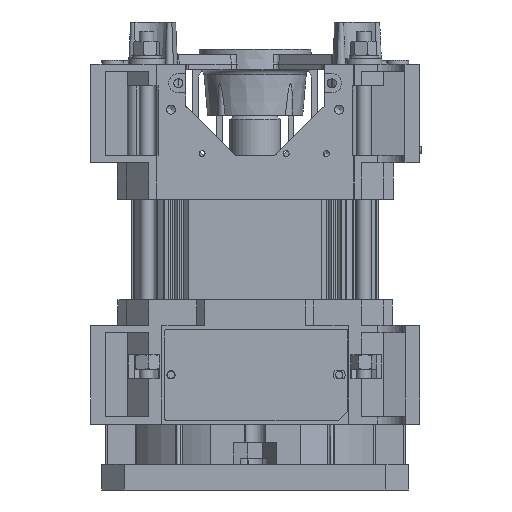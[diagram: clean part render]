
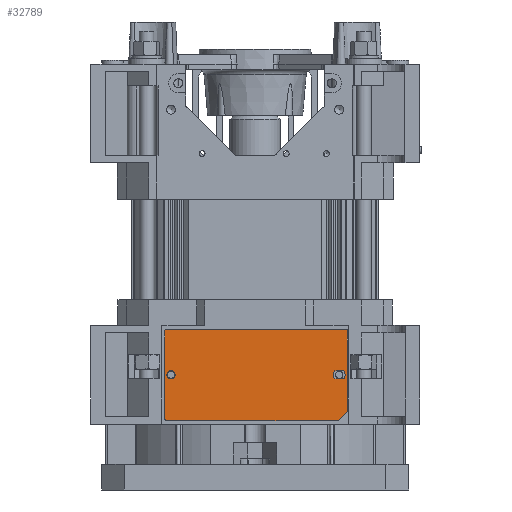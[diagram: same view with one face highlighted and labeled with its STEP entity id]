
A CAD part, left-side view. The second image highlights one B-rep face of the part: STEP entity #32789.
In plain terms, the highlighted planar face has unit normal (-1, 0, 0) as drawn and (0, 0, -1) by its records, which use the part's own axes.
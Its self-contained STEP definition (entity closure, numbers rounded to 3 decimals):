
#3837=LINE('',#58661,#6799);
#3841=LINE('',#58671,#6803);
#3846=LINE('',#58689,#6808);
#3850=LINE('',#58701,#6812);
#3854=LINE('',#58713,#6816);
#3857=LINE('',#58719,#6819);
#3859=LINE('',#58722,#6821);
#6799=VECTOR('',#45557,1.);
#6803=VECTOR('',#45569,1.);
#6808=VECTOR('',#45588,1.);
#6812=VECTOR('',#45600,1.);
#6816=VECTOR('',#45612,1.);
#6819=VECTOR('',#45617,1.);
#6821=VECTOR('',#45621,1.);
#7795=PLANE('',#36138);
#8026=FACE_BOUND('',#11680,.T.);
#8027=FACE_BOUND('',#11681,.T.);
#9734=FACE_OUTER_BOUND('',#11679,.T.);
#11679=EDGE_LOOP('',(#30581,#30582,#30583,#30584,#30585,#30586,#30587,#30588));
#11680=EDGE_LOOP('',(#30589,#30590,#30591,#30592));
#11681=EDGE_LOOP('',(#30593,#30594));
#13089=CIRCLE('',#36111,2.25);
#13091=CIRCLE('',#36114,3.25);
#13093=CIRCLE('',#36118,3.25);
#13094=CIRCLE('',#36121,2.25);
#13097=CIRCLE('',#36125,1.);
#13099=CIRCLE('',#36129,1.);
#13101=CIRCLE('',#36133,1.);
#16250=VERTEX_POINT('',#58641);
#16252=VERTEX_POINT('',#58645);
#16255=VERTEX_POINT('',#58652);
#16256=VERTEX_POINT('',#58654);
#16258=VERTEX_POINT('',#58660);
#16260=VERTEX_POINT('',#58666);
#16263=VERTEX_POINT('',#58679);
#16264=VERTEX_POINT('',#58681);
#16266=VERTEX_POINT('',#58687);
#16268=VERTEX_POINT('',#58693);
#16270=VERTEX_POINT('',#58699);
#16272=VERTEX_POINT('',#58705);
#16274=VERTEX_POINT('',#58711);
#16276=VERTEX_POINT('',#58717);
#21016=EDGE_CURVE('',#16250,#16252,#13089,.T.);
#21019=EDGE_CURVE('',#16256,#16255,#13091,.T.);
#21022=EDGE_CURVE('',#16258,#16256,#3837,.T.);
#21025=EDGE_CURVE('',#16260,#16258,#13093,.T.);
#21028=EDGE_CURVE('',#16255,#16260,#3841,.T.);
#21029=EDGE_CURVE('',#16252,#16250,#13094,.T.);
#21033=EDGE_CURVE('',#16264,#16263,#13097,.T.);
#21037=EDGE_CURVE('',#16263,#16266,#3846,.T.);
#21040=EDGE_CURVE('',#16266,#16268,#13099,.T.);
#21043=EDGE_CURVE('',#16268,#16270,#3850,.T.);
#21046=EDGE_CURVE('',#16270,#16272,#13101,.T.);
#21049=EDGE_CURVE('',#16272,#16274,#3854,.T.);
#21052=EDGE_CURVE('',#16274,#16276,#3857,.T.);
#21054=EDGE_CURVE('',#16276,#16264,#3859,.T.);
#30581=ORIENTED_EDGE('',*,*,#21054,.T.);
#30582=ORIENTED_EDGE('',*,*,#21033,.T.);
#30583=ORIENTED_EDGE('',*,*,#21037,.T.);
#30584=ORIENTED_EDGE('',*,*,#21040,.T.);
#30585=ORIENTED_EDGE('',*,*,#21043,.T.);
#30586=ORIENTED_EDGE('',*,*,#21046,.T.);
#30587=ORIENTED_EDGE('',*,*,#21049,.T.);
#30588=ORIENTED_EDGE('',*,*,#21052,.T.);
#30589=ORIENTED_EDGE('',*,*,#21019,.T.);
#30590=ORIENTED_EDGE('',*,*,#21028,.T.);
#30591=ORIENTED_EDGE('',*,*,#21025,.T.);
#30592=ORIENTED_EDGE('',*,*,#21022,.T.);
#30593=ORIENTED_EDGE('',*,*,#21029,.T.);
#30594=ORIENTED_EDGE('',*,*,#21016,.T.);
#32789=ADVANCED_FACE('',(#9734,#8026,#8027),#7795,.F.);
#36111=AXIS2_PLACEMENT_3D('',#58647,#45544,#45545);
#36114=AXIS2_PLACEMENT_3D('',#58655,#45551,#45552);
#36118=AXIS2_PLACEMENT_3D('',#58667,#45563,#45564);
#36121=AXIS2_PLACEMENT_3D('',#58673,#45572,#45573);
#36125=AXIS2_PLACEMENT_3D('',#58682,#45581,#45582);
#36129=AXIS2_PLACEMENT_3D('',#58695,#45594,#45595);
#36133=AXIS2_PLACEMENT_3D('',#58707,#45606,#45607);
#36138=AXIS2_PLACEMENT_3D('',#58724,#45624,#45625);
#45544=DIRECTION('center_axis',(0.,0.,1.));
#45545=DIRECTION('ref_axis',(-1.,0.,0.));
#45551=DIRECTION('center_axis',(0.,0.,1.));
#45552=DIRECTION('ref_axis',(-0.722,0.692,0.));
#45557=DIRECTION('',(1.,0.,0.));
#45563=DIRECTION('center_axis',(0.,0.,1.));
#45564=DIRECTION('ref_axis',(0.722,-0.692,0.));
#45569=DIRECTION('',(-1.,0.,0.));
#45572=DIRECTION('center_axis',(0.,0.,1.));
#45573=DIRECTION('ref_axis',(-1.,0.,0.));
#45581=DIRECTION('center_axis',(0.,0.,-1.));
#45582=DIRECTION('ref_axis',(0.,1.,0.));
#45588=DIRECTION('',(-1.,0.,0.));
#45594=DIRECTION('center_axis',(0.,0.,-1.));
#45595=DIRECTION('ref_axis',(1.,0.,0.));
#45600=DIRECTION('',(0.,1.,0.));
#45606=DIRECTION('center_axis',(0.,0.,-1.));
#45607=DIRECTION('ref_axis',(0.,-1.,0.));
#45612=DIRECTION('',(1.,0.,0.));
#45617=DIRECTION('',(0.707,-0.707,0.));
#45621=DIRECTION('',(0.,-1.,0.));
#45624=DIRECTION('center_axis',(0.,0.,1.));
#45625=DIRECTION('ref_axis',(1.,0.,0.));
#58641=CARTESIAN_POINT('',(15836.624,-1887.647,0.));
#58645=CARTESIAN_POINT('',(15841.124,-1887.647,0.));
#58647=CARTESIAN_POINT('Origin',(15838.874,-1887.647,0.));
#58652=CARTESIAN_POINT('',(15933.219,-1885.397,0.));
#58654=CARTESIAN_POINT('',(15933.219,-1889.897,0.));
#58655=CARTESIAN_POINT('Origin',(15930.874,-1887.647,0.));
#58660=CARTESIAN_POINT('',(15928.529,-1889.897,0.));
#58661=CARTESIAN_POINT('',(15928.529,-1889.897,0.));
#58666=CARTESIAN_POINT('',(15928.529,-1885.397,0.));
#58667=CARTESIAN_POINT('Origin',(15930.874,-1887.647,0.));
#58671=CARTESIAN_POINT('',(15933.219,-1885.397,0.));
#58673=CARTESIAN_POINT('Origin',(15838.874,-1887.647,0.));
#58679=CARTESIAN_POINT('',(15934.374,-1912.647,0.));
#58681=CARTESIAN_POINT('',(15935.374,-1911.647,0.));
#58682=CARTESIAN_POINT('Origin',(15934.374,-1911.647,0.));
#58687=CARTESIAN_POINT('',(15836.374,-1912.647,0.));
#58689=CARTESIAN_POINT('',(15934.374,-1912.647,0.));
#58693=CARTESIAN_POINT('',(15835.374,-1911.647,0.));
#58695=CARTESIAN_POINT('Origin',(15836.374,-1911.647,0.));
#58699=CARTESIAN_POINT('',(15835.374,-1863.647,0.));
#58701=CARTESIAN_POINT('',(15835.374,-1911.647,0.));
#58705=CARTESIAN_POINT('',(15836.374,-1862.647,0.));
#58707=CARTESIAN_POINT('Origin',(15836.374,-1863.647,0.));
#58711=CARTESIAN_POINT('',(15930.374,-1862.647,0.));
#58713=CARTESIAN_POINT('',(15836.374,-1862.647,0.));
#58717=CARTESIAN_POINT('',(15935.374,-1867.647,0.));
#58719=CARTESIAN_POINT('',(15930.374,-1862.647,0.));
#58722=CARTESIAN_POINT('',(15935.374,-1867.647,0.));
#58724=CARTESIAN_POINT('Origin',(15830.374,-1915.147,0.));
